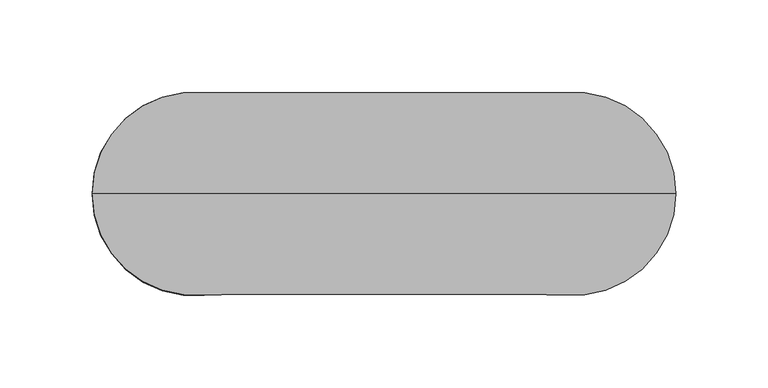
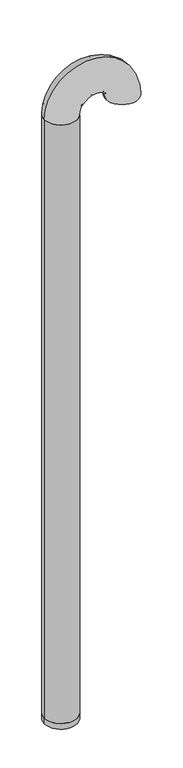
"""IFC4 building model written with IfcOpenShell, lengths in millimetres: pipe fitting geometry, Superdrain Vent Termianl : Superdrain Vent Termianl DN 110."""

from ifc_helpers import new_model, si_unit, point, frame, origin, origin_with_axes, origin_2d, place, context, project, spatial, circle_curve, ellipse_curve, trimmed, segment, composite_curve, outline, extrude, source, transform, mapped, element, save
from ifc_brep_helpers import plane_surface, revolved_surface, advanced_brep


def pipe_fitting_fc833b45(model_context):
    return source(origin(), model_context, "Body", "SolidModel", [
        advanced_brep(
        [(55.0, 0.0, 2150.0), (-55.0, 0.0, 2150.0), (52.0, 0.0, 2150.0), (-52.0, 0.0, 2150.0), (151.5, 0.0, 2150.0), (261.5, 0.0, 2150.0), (154.5, 0.0, 2150.0), (258.5, 0.0, 2150.0)],
        [
            (0, 1, circle_curve(frame((0.0, 0.0, 2150.0), z_axis=(0.0, 0.0, -1.0), x_axis=(-1.0, 0.0, 0.0)), 55.0)),
            (1, 0, circle_curve(frame((0.0, 0.0, 2150.0), z_axis=(0.0, 0.0, -1.0), x_axis=(-1.0, 0.0, 0.0)), 55.0)),
            (2, 3, circle_curve(frame((0.0, 0.0, 2150.0), z_axis=(0.0, 0.0, 1.0), x_axis=(-1.0, 0.0, 0.0)), 52.0)),
            (3, 2, circle_curve(frame((0.0, 0.0, 2150.0), z_axis=(0.0, 0.0, 1.0), x_axis=(-1.0, 0.0, 0.0)), 52.0)),
            (4, 5, circle_curve(frame((206.5, 0.0, 2150.0), z_axis=(0.0, 0.0, -1.0), x_axis=(1.0, 0.0, 0.0)), 55.0)),
            (5, 4, circle_curve(frame((206.5, 0.0, 2150.0), z_axis=(0.0, 0.0, -1.0), x_axis=(1.0, 0.0, 0.0)), 55.0)),
            (6, 7, circle_curve(frame((206.5, 0.0, 2150.0), z_axis=(0.0, 0.0, 1.0), x_axis=(1.0, 0.0, 0.0)), 52.0)),
            (7, 6, circle_curve(frame((206.5, 0.0, 2150.0), z_axis=(0.0, 0.0, 1.0), x_axis=(1.0, 0.0, 0.0)), 52.0)),
            (5, 1, circle_curve(frame((103.25, 0.0, 2150.0), z_axis=(0.0, -1.0, 0.0), x_axis=(-1.0, 0.0, 0.0)), 158.25)),
            (0, 4, circle_curve(frame((103.25, 0.0, 2150.0), z_axis=(0.0, 1.0, 0.0), x_axis=(-1.0, 0.0, 0.0)), 48.25)),
            (7, 3, circle_curve(frame((103.25, 0.0, 2150.0), z_axis=(0.0, -1.0, 0.0), x_axis=(-1.0, 0.0, 0.0)), 155.25)),
            (2, 6, circle_curve(frame((103.25, 0.0, 2150.0), z_axis=(0.0, 1.0, 0.0), x_axis=(-1.0, 0.0, 0.0)), 51.25)),
        ],
        [
            plane_surface(frame((0.0, 0.0, 2150.0), z_axis=(0.0, 0.0, -1.0), x_axis=(0.0, -1.0, 0.0))),
            plane_surface(frame((206.5, 0.0, 2150.0), z_axis=(0.0, 0.0, -1.0), x_axis=(0.0, -1.0, 0.0))),
            revolved_surface(trimmed(ellipse_curve(frame((0.0, 0.0, 2150.0), z_axis=(0.0, 0.0, -1.0), x_axis=(-1.0, 0.0, 0.0)), 55.0, 55.0), [point((55.0, 0.0, 2150.0))], [point((-55.0, 0.0, 2150.0))], True, "CARTESIAN"), (103.25, 0.0, 2150.0), (0.0, 1.0, 0.0)),
            revolved_surface(trimmed(ellipse_curve(frame((0.0, 0.0, 2150.0), z_axis=(0.0, 0.0, -1.0), x_axis=(-1.0, 0.0, 0.0)), 55.0, 55.0), [point((-55.0, 0.0, 2150.0))], [point((55.0, 0.0, 2150.0))], True, "CARTESIAN"), (103.25, 0.0, 2150.0), (0.0, 1.0, 0.0)),
            revolved_surface(trimmed(ellipse_curve(frame((0.0, 0.0, 2150.0), z_axis=(0.0, 0.0, 1.0), x_axis=(-1.0, 0.0, 0.0)), 52.0, 52.0), [point((52.0, 0.0, 2150.0))], [point((-52.0, 0.0, 2150.0))], True, "CARTESIAN"), (103.25, 0.0, 2150.0), (0.0, 1.0, 0.0)),
            revolved_surface(trimmed(ellipse_curve(frame((0.0, 0.0, 2150.0), z_axis=(0.0, 0.0, 1.0), x_axis=(-1.0, 0.0, 0.0)), 52.0, 52.0), [point((-52.0, 0.0, 2150.0))], [point((52.0, 0.0, 2150.0))], True, "CARTESIAN"), (103.25, 0.0, 2150.0), (0.0, 1.0, 0.0)),
        ],
        [
            (0, [[1, 2], [3, 4]]),
            (1, [[5, 6], [7, 8]]),
            (2, [[9, -1, 10, -6]]),
            (3, [[-10, -2, -9, -5]]),
            (4, [[11, -3, 12, -8]]),
            (5, [[-12, -4, -11, -7]]),
        ],
    ),
        extrude(outline(composite_curve([segment(trimmed(circle_curve(origin_2d(), 55.0), [point((55.0, 0.0))], [point((-55.0, 0.0))], False, "CARTESIAN"), True, "CONTINUOUS"), segment(trimmed(circle_curve(origin_2d(), 55.0), [point((-55.0, 0.0))], [point((55.0, 0.0))], False, "CARTESIAN"), True, "CONTINUOUS")], self_intersect=False), holes=[composite_curve([segment(trimmed(circle_curve(origin_2d(), 52.0), [point((52.0, 0.0))], [point((-52.0, 0.0))], True, "CARTESIAN"), True, "CONTINUOUS"), segment(trimmed(circle_curve(origin_2d(), 52.0), [point((-52.0, 0.0))], [point((52.0, 0.0))], True, "CARTESIAN"), True, "CONTINUOUS")], self_intersect=False)]), frame((0.0, 0.0, 20.0), z_axis=(0.0, 0.0, 1.0), x_axis=(1.0, 0.0, 0.0)), (0.0, 0.0, 1.0), 2130.0),
        extrude(outline(composite_curve([segment(trimmed(circle_curve(origin_2d(), 55.0), [point((-55.0, 0.0))], [point((55.0, 0.0))], False, "CARTESIAN"), True, "CONTINUOUS"), segment(trimmed(circle_curve(origin_2d(), 55.0), [point((55.0, 0.0))], [point((-55.0, 0.0))], False, "CARTESIAN"), True, "CONTINUOUS")], self_intersect=False), holes=[composite_curve([segment(trimmed(circle_curve(origin_2d(), 52.0), [point((-52.0, 0.0))], [point((52.0, 0.0))], True, "CARTESIAN"), True, "CONTINUOUS"), segment(trimmed(circle_curve(origin_2d(), 52.0), [point((52.0, 0.0))], [point((-52.0, 0.0))], True, "CARTESIAN"), True, "CONTINUOUS")], self_intersect=False)]), origin_with_axes(), (0.0, 0.0, 1.0), 20.0),
    ])


if __name__ == "__main__":
    model = new_model("IFC4")
    model_context = context("Model", 3, world=origin())
    ifc_project = project(units=[si_unit("LENGTHUNIT", "METRE", prefix="MILLI")], contexts=[model_context])
    site = spatial("IfcSite", under=ifc_project)
    building = spatial("IfcBuilding", under=site)
    placement = place(None, origin())
    pipe_fitting_shape = pipe_fitting_fc833b45(model_context)
    element("IfcPipeFitting", 1, ObjectType="Superdrain Vent Termianl : Superdrain Vent Termianl DN 110", at=placement, inside=building, context=model_context, shape_type="MappedRepresentation", body=[
        mapped(pipe_fitting_shape, transform((0.0, 0.0, 0.0), x_axis=(1.0, 0.0, 0.0), y_axis=(0.0, 1.0, 0.0), z_axis=(0.0, 0.0, 1.0))),
    ])
    save(model, "model.ifc")
